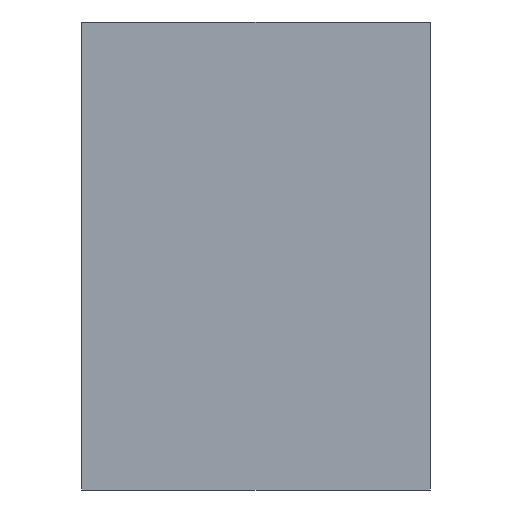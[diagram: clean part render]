
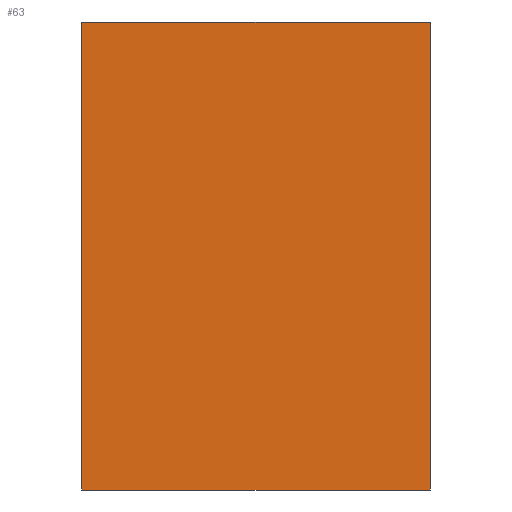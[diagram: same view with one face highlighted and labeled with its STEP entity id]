
A CAD part, front view. The second image highlights one B-rep face of the part: STEP entity #63.
In plain terms, the highlighted planar face has unit normal (0, -1, 0).
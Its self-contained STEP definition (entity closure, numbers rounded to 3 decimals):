
#63 = ADVANCED_FACE ( 'NONE', ( #22518 ), #18846, .T. ) ;
#81 = CARTESIAN_POINT ( 'NONE',  ( -18.59, 0., -25. ) ) ;
#325 = DIRECTION ( 'NONE',  ( 1., 0., 0. ) ) ;
#836 = LINE ( 'NONE', #3803, #23015 ) ;
#1235 = EDGE_CURVE ( 'NONE', #9543, #8535, #13493, .T. ) ;
#1667 = VECTOR ( 'NONE', #325, 1000. ) ;
#2109 = DIRECTION ( 'NONE',  ( 0., 0., 1. ) ) ;
#2121 = DIRECTION ( 'NONE',  ( 1., 0., 0. ) ) ;
#2253 = LINE ( 'NONE', #5786, #1667 ) ;
#2360 = CARTESIAN_POINT ( 'NONE',  ( 18.59, 0., -25. ) ) ;
#3017 = EDGE_CURVE ( 'NONE', #20186, #16849, #5320, .T. ) ;
#3472 = CARTESIAN_POINT ( 'NONE',  ( -18.59, 0., -25. ) ) ;
#3803 = CARTESIAN_POINT ( 'NONE',  ( 0., 0., -25. ) ) ;
#4396 = CARTESIAN_POINT ( 'NONE',  ( 18.59, 0., 25. ) ) ;
#5320 = LINE ( 'NONE', #81, #13956 ) ;
#5512 = EDGE_CURVE ( 'NONE', #20186, #9543, #836, .T. ) ;
#5786 = CARTESIAN_POINT ( 'NONE',  ( 0., 0., 25. ) ) ;
#5816 = ORIENTED_EDGE ( 'NONE', *, *, #3017, .F. ) ;
#6185 = ORIENTED_EDGE ( 'NONE', *, *, #5512, .T. ) ;
#7445 = VECTOR ( 'NONE', #17957, 1000. ) ;
#7895 = CARTESIAN_POINT ( 'NONE',  ( 0., 0., -25. ) ) ;
#8535 = VERTEX_POINT ( 'NONE', #4396 ) ;
#9543 = VERTEX_POINT ( 'NONE', #2360 ) ;
#9762 = DIRECTION ( 'NONE',  ( 0., -1., 0. ) ) ;
#11582 = DIRECTION ( 'NONE',  ( 0., 0., -1. ) ) ;
#13149 = EDGE_CURVE ( 'NONE', #16849, #8535, #2253, .T. ) ;
#13493 = LINE ( 'NONE', #15859, #7445 ) ;
#13956 = VECTOR ( 'NONE', #2109, 1000. ) ;
#15859 = CARTESIAN_POINT ( 'NONE',  ( 18.59, 0., -25. ) ) ;
#16171 = ORIENTED_EDGE ( 'NONE', *, *, #13149, .F. ) ;
#16849 = VERTEX_POINT ( 'NONE', #20439 ) ;
#17957 = DIRECTION ( 'NONE',  ( 0., 0., 1. ) ) ;
#18837 = ORIENTED_EDGE ( 'NONE', *, *, #1235, .T. ) ;
#18846 = PLANE ( 'NONE',  #23644 ) ;
#20186 = VERTEX_POINT ( 'NONE', #3472 ) ;
#20439 = CARTESIAN_POINT ( 'NONE',  ( -18.59, 0., 25. ) ) ;
#22518 = FACE_OUTER_BOUND ( 'NONE', #23737, .T. ) ;
#23015 = VECTOR ( 'NONE', #2121, 1000. ) ;
#23644 = AXIS2_PLACEMENT_3D ( 'NONE', #7895, #9762, #11582 ) ;
#23737 = EDGE_LOOP ( 'NONE', ( #16171, #5816, #6185, #18837 ) ) ;
